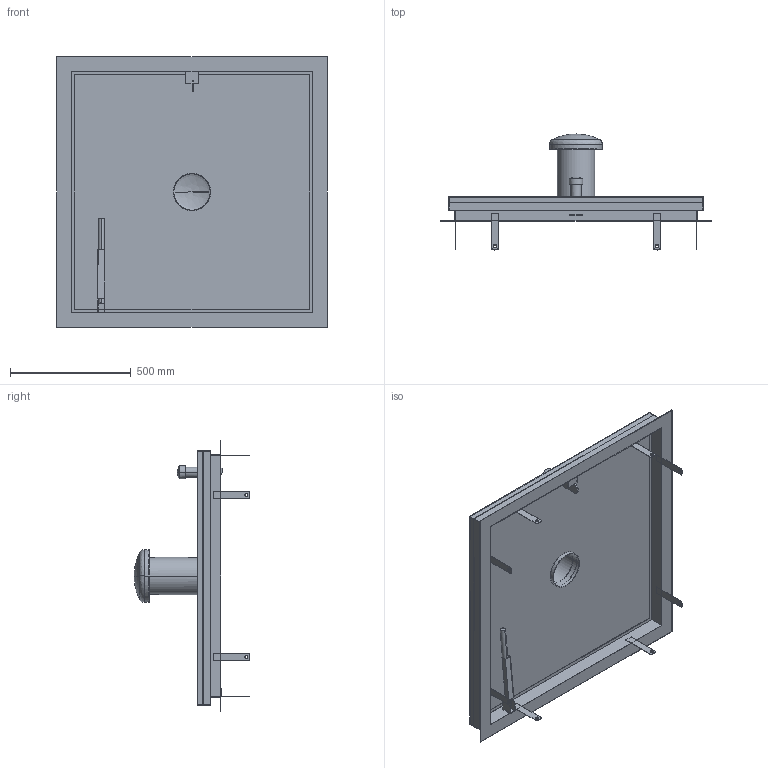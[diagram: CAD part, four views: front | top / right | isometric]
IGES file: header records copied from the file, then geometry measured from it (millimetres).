
Start section:  PTC IGES file: 52335843.igs
Global section: file name: 52335843.igs; native system: Creo Parametric by PTC Inc.; preprocessor: 2022162; author: wep; organization: Unknown; date: 20241219.074618; units: millimetre
Bounding box: 1120 x 479 x 1120 mm (x, y, z)
Surface area: 6423309.8 mm2 (no closed solid volume)
Topology: 0 solids, 0 shells, 757 faces, 4090 edges, 4084 vertices
Faces by surface type: bspline 425, extrusion 275, revolution 57
